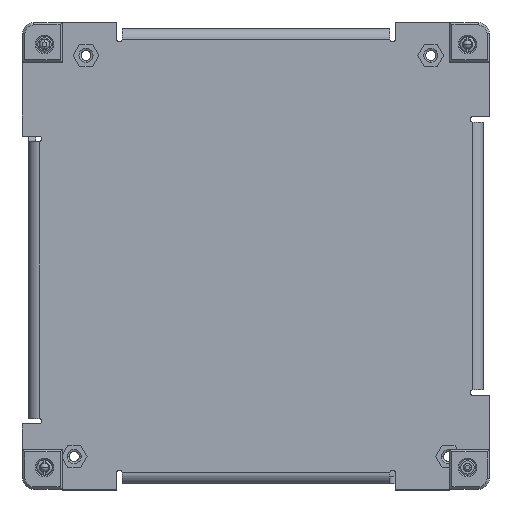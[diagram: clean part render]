
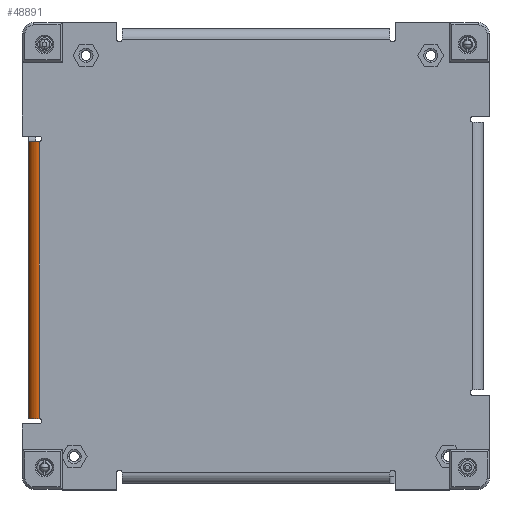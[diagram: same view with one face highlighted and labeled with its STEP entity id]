
A CAD part, top view. The second image highlights one B-rep face of the part: STEP entity #48891.
In plain terms, the highlighted cylindrical face has radius 2.286 mm (diameter 4.572 mm), a partial arc.
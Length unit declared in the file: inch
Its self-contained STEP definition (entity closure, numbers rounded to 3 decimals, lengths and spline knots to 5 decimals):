
#266 = CARTESIAN_POINT ( 'NONE',  ( -1.82369, -1.36732, -0.09 ) ) ;
#484 = LINE ( 'NONE', #31838, #12438 ) ;
#1827 = CARTESIAN_POINT ( 'NONE',  ( -1.82369, -1.36732, 0. ) ) ;
#4855 = DIRECTION ( 'NONE',  ( -1., 0., 0. ) ) ;
#9664 = EDGE_CURVE ( 'NONE', #42188, #27468, #484, .T. ) ;
#10092 = AXIS2_PLACEMENT_3D ( 'NONE', #266, #31274, #4855 ) ;
#12438 = VECTOR ( 'NONE', #27599, 39.37008 ) ;
#13440 = ORIENTED_EDGE ( 'NONE', *, *, #9664, .F. ) ;
#13601 = CARTESIAN_POINT ( 'NONE',  ( -1.82369, 0.9625, -0.09 ) ) ;
#14290 = CARTESIAN_POINT ( 'NONE',  ( -1.82369, -7.98868, -0.09 ) ) ;
#18049 = DIRECTION ( 'NONE',  ( -1., 0., 0. ) ) ;
#18228 = EDGE_CURVE ( 'NONE', #54122, #27468, #46719, .T. ) ;
#21866 = AXIS2_PLACEMENT_3D ( 'NONE', #14290, #45139, #49588 ) ;
#22532 = CARTESIAN_POINT ( 'NONE',  ( -1.82369, 0.9625, 0. ) ) ;
#24007 = ORIENTED_EDGE ( 'NONE', *, *, #18228, .T. ) ;
#24533 = DIRECTION ( 'NONE',  ( 0., -1., 0. ) ) ;
#27202 = VECTOR ( 'NONE', #24533, 39.37008 ) ;
#27468 = VERTEX_POINT ( 'NONE', #35135 ) ;
#27599 = DIRECTION ( 'NONE',  ( 0., 1., 0. ) ) ;
#28341 = CYLINDRICAL_SURFACE ( 'NONE', #21866, 0.09 ) ;
#28591 = LINE ( 'NONE', #51006, #27202 ) ;
#29454 = EDGE_CURVE ( 'NONE', #42188, #38362, #52433, .T. ) ;
#31274 = DIRECTION ( 'NONE',  ( 0., 1., 0. ) ) ;
#31838 = CARTESIAN_POINT ( 'NONE',  ( -1.91369, -1.36732, -0.09 ) ) ;
#35135 = CARTESIAN_POINT ( 'NONE',  ( -1.91369, 0.9625, -0.09 ) ) ;
#35770 = AXIS2_PLACEMENT_3D ( 'NONE', #13601, #44427, #18049 ) ;
#36052 = EDGE_CURVE ( 'NONE', #54122, #38362, #28591, .T. ) ;
#38103 = CARTESIAN_POINT ( 'NONE',  ( -1.91369, -1.36732, -0.09 ) ) ;
#38362 = VERTEX_POINT ( 'NONE', #1827 ) ;
#38681 = ORIENTED_EDGE ( 'NONE', *, *, #36052, .F. ) ;
#40587 = ORIENTED_EDGE ( 'NONE', *, *, #29454, .T. ) ;
#42188 = VERTEX_POINT ( 'NONE', #38103 ) ;
#44427 = DIRECTION ( 'NONE',  ( 0., -1., 0. ) ) ;
#45139 = DIRECTION ( 'NONE',  ( 0., 1., 0. ) ) ;
#46719 = CIRCLE ( 'NONE', #35770, 0.09 ) ;
#48891 = ADVANCED_FACE ( 'NONE', ( #55946 ), #28341, .T. ) ;
#49588 = DIRECTION ( 'NONE',  ( -1., 0., 0. ) ) ;
#51006 = CARTESIAN_POINT ( 'NONE',  ( -1.82369, -1.36732, 0. ) ) ;
#51309 = EDGE_LOOP ( 'NONE', ( #38681, #24007, #13440, #40587 ) ) ;
#52433 = CIRCLE ( 'NONE', #10092, 0.09 ) ;
#54122 = VERTEX_POINT ( 'NONE', #22532 ) ;
#55946 = FACE_OUTER_BOUND ( 'NONE', #51309, .T. ) ;
